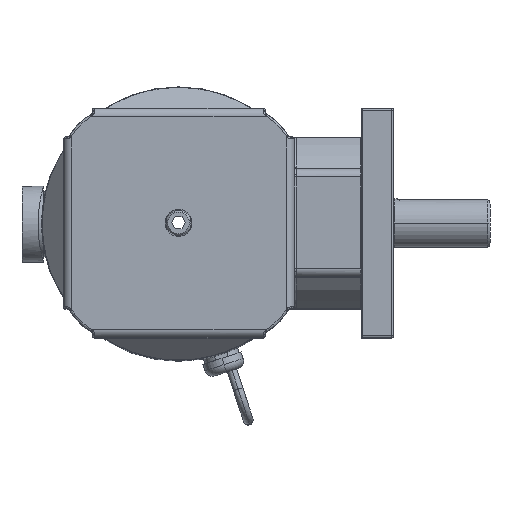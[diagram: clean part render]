
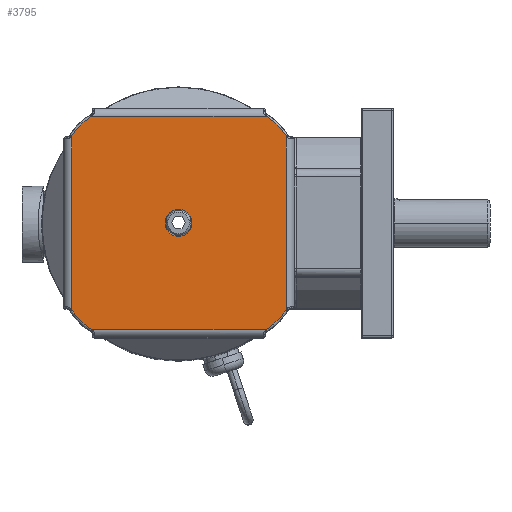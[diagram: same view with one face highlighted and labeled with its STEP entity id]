
A CAD part, top view. The second image highlights one B-rep face of the part: STEP entity #3795.
In plain terms, the highlighted planar face has unit normal (0, 0, 1).
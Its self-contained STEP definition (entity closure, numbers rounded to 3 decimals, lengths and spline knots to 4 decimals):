
#100 = LINE ( 'NONE', #106, #165 ) ;
#101 = DIRECTION ( 'NONE',  ( 1., 0., 0. ) ) ;
#102 = DIRECTION ( 'NONE',  ( 0., 0., 1. ) ) ;
#103 = CARTESIAN_POINT ( 'NONE',  ( 0., 0., 2.821 ) ) ;
#104 = AXIS2_PLACEMENT_3D ( 'NONE', #103, #102, #101 ) ;
#105 = CIRCLE ( 'NONE', #104, 0.2093 ) ;
#106 = CARTESIAN_POINT ( 'NONE',  ( -1.66, -1.785, 2.821 ) ) ;
#138 = DIRECTION ( 'NONE',  ( -1., 0., 0. ) ) ;
#139 = DIRECTION ( 'NONE',  ( 0., 0., -1. ) ) ;
#140 = CARTESIAN_POINT ( 'NONE',  ( -1.785, -1.785, 2.821 ) ) ;
#141 = AXIS2_PLACEMENT_3D ( 'NONE', #140, #139, #138 ) ;
#142 = PLANE ( 'NONE',  #141 ) ;
#143 = FACE_OUTER_BOUND ( 'NONE', #4063, .T. ) ;
#144 = FACE_BOUND ( 'NONE', #3780, .T. ) ;
#164 = DIRECTION ( 'NONE',  ( 0., -1., 0. ) ) ;
#165 = VECTOR ( 'NONE', #164, 39.3701 ) ;
#2305 = DIRECTION ( 'NONE',  ( -1., 0., 0. ) ) ;
#2306 = DIRECTION ( 'NONE',  ( 0., 0., 1. ) ) ;
#2307 = CARTESIAN_POINT ( 'NONE',  ( 0.861, -0.85, 2.821 ) ) ;
#2308 = AXIS2_PLACEMENT_3D ( 'NONE', #2307, #2306, #2305 ) ;
#2309 = CIRCLE ( 'NONE', #2308, 0.9527 ) ;
#2310 = CARTESIAN_POINT ( 'NONE',  ( 1.671, -1.3516, 2.821 ) ) ;
#3550 = EDGE_CURVE ( 'NONE', #3723, #20335, #5671, .T. ) ;
#3723 = VERTEX_POINT ( 'NONE', #24276 ) ;
#3779 = EDGE_CURVE ( 'NONE', #16780, #16795, #105, .T. ) ;
#3780 = EDGE_LOOP ( 'NONE', ( #4061, #4062 ) ) ;
#3781 = ORIENTED_EDGE ( 'NONE', *, *, #20449, .T. ) ;
#3782 = ORIENTED_EDGE ( 'NONE', *, *, #20657, .T. ) ;
#3783 = ORIENTED_EDGE ( 'NONE', *, *, #3784, .T. ) ;
#3784 = EDGE_CURVE ( 'NONE', #20686, #35965, #100, .T. ) ;
#3785 = ORIENTED_EDGE ( 'NONE', *, *, #21037, .T. ) ;
#3795 = ADVANCED_FACE ( 'NONE', ( #144, #143 ), #142, .F. ) ;
#3918 = ORIENTED_EDGE ( 'NONE', *, *, #3550, .T. ) ;
#3922 = VERTEX_POINT ( 'NONE', #2310 ) ;
#3924 = EDGE_CURVE ( 'NONE', #17949, #3922, #2309, .T. ) ;
#4004 = EDGE_CURVE ( 'NONE', #3922, #3723, #38450, .T. ) ;
#4061 = ORIENTED_EDGE ( 'NONE', *, *, #3779, .F. ) ;
#4062 = ORIENTED_EDGE ( 'NONE', *, *, #16779, .F. ) ;
#4063 = EDGE_LOOP ( 'NONE', ( #4064, #3918, #3781, #3782, #3783, #3785, #4070, #4071 ) ) ;
#4064 = ORIENTED_EDGE ( 'NONE', *, *, #4004, .T. ) ;
#4070 = ORIENTED_EDGE ( 'NONE', *, *, #18234, .T. ) ;
#4071 = ORIENTED_EDGE ( 'NONE', *, *, #3924, .T. ) ;
#5667 = DIRECTION ( 'NONE',  ( -1., 0., 0. ) ) ;
#5668 = DIRECTION ( 'NONE',  ( 0., 0., 1. ) ) ;
#5669 = CARTESIAN_POINT ( 'NONE',  ( 0.861, 0.85, 2.821 ) ) ;
#5670 = AXIS2_PLACEMENT_3D ( 'NONE', #5669, #5668, #5667 ) ;
#5671 = CIRCLE ( 'NONE', #5670, 0.9527 ) ;
#11876 = CARTESIAN_POINT ( 'NONE',  ( -1.3516, -1.66, 2.821 ) ) ;
#12815 = CARTESIAN_POINT ( 'NONE',  ( -1.66, -1.3516, 2.821 ) ) ;
#16779 = EDGE_CURVE ( 'NONE', #16795, #16780, #46021, .T. ) ;
#16780 = VERTEX_POINT ( 'NONE', #46014 ) ;
#16795 = VERTEX_POINT ( 'NONE', #45945 ) ;
#17949 = VERTEX_POINT ( 'NONE', #47228 ) ;
#18234 = EDGE_CURVE ( 'NONE', #25628, #17949, #47404, .T. ) ;
#20335 = VERTEX_POINT ( 'NONE', #48809 ) ;
#20449 = EDGE_CURVE ( 'NONE', #20335, #20578, #48856, .T. ) ;
#20578 = VERTEX_POINT ( 'NONE', #52107 ) ;
#20657 = EDGE_CURVE ( 'NONE', #20578, #20686, #31684, .T. ) ;
#20686 = VERTEX_POINT ( 'NONE', #32050 ) ;
#21037 = EDGE_CURVE ( 'NONE', #35965, #25628, #40085, .T. ) ;
#24276 = CARTESIAN_POINT ( 'NONE',  ( 1.671, 1.3516, 2.821 ) ) ;
#25628 = VERTEX_POINT ( 'NONE', #11876 ) ;
#31679 = DIRECTION ( 'NONE',  ( -1., 0., 0. ) ) ;
#31680 = DIRECTION ( 'NONE',  ( 0., 0., 1. ) ) ;
#31682 = AXIS2_PLACEMENT_3D ( 'NONE', #31696, #31680, #31679 ) ;
#31684 = CIRCLE ( 'NONE', #31682, 0.9527 ) ;
#31696 = CARTESIAN_POINT ( 'NONE',  ( -0.85, 0.85, 2.821 ) ) ;
#32050 = CARTESIAN_POINT ( 'NONE',  ( -1.66, 1.3516, 2.821 ) ) ;
#35965 = VERTEX_POINT ( 'NONE', #12815 ) ;
#38447 = DIRECTION ( 'NONE',  ( 0., 1., 0. ) ) ;
#38448 = VECTOR ( 'NONE', #38447, 39.3701 ) ;
#38449 = CARTESIAN_POINT ( 'NONE',  ( 1.671, 1.337, 2.821 ) ) ;
#38450 = LINE ( 'NONE', #38449, #38448 ) ;
#40081 = DIRECTION ( 'NONE',  ( -1., 0., 0. ) ) ;
#40082 = DIRECTION ( 'NONE',  ( 0., 0., 1. ) ) ;
#40083 = CARTESIAN_POINT ( 'NONE',  ( -0.85, -0.85, 2.821 ) ) ;
#40084 = AXIS2_PLACEMENT_3D ( 'NONE', #40083, #40082, #40081 ) ;
#40085 = CIRCLE ( 'NONE', #40084, 0.9527 ) ;
#45945 = CARTESIAN_POINT ( 'NONE',  ( -0.2093, 0., 2.821 ) ) ;
#46014 = CARTESIAN_POINT ( 'NONE',  ( 0.2093, 0., 2.821 ) ) ;
#46016 = DIRECTION ( 'NONE',  ( 1., 0., 0. ) ) ;
#46017 = DIRECTION ( 'NONE',  ( 0., 0., 1. ) ) ;
#46019 = CARTESIAN_POINT ( 'NONE',  ( 0., 0., 2.821 ) ) ;
#46020 = AXIS2_PLACEMENT_3D ( 'NONE', #46019, #46017, #46016 ) ;
#46021 = CIRCLE ( 'NONE', #46020, 0.2093 ) ;
#47228 = CARTESIAN_POINT ( 'NONE',  ( 1.3626, -1.66, 2.821 ) ) ;
#47399 = DIRECTION ( 'NONE',  ( 1., 0., 0. ) ) ;
#47400 = VECTOR ( 'NONE', #47399, 39.3701 ) ;
#47402 = CARTESIAN_POINT ( 'NONE',  ( -1.785, -1.66, 2.821 ) ) ;
#47404 = LINE ( 'NONE', #47402, #47400 ) ;
#48809 = CARTESIAN_POINT ( 'NONE',  ( 1.3626, 1.66, 2.821 ) ) ;
#48855 = CARTESIAN_POINT ( 'NONE',  ( -1.785, 1.66, 2.821 ) ) ;
#48856 = LINE ( 'NONE', #48855, #48987 ) ;
#48986 = DIRECTION ( 'NONE',  ( -1., 0., 0. ) ) ;
#48987 = VECTOR ( 'NONE', #48986, 39.3701 ) ;
#52107 = CARTESIAN_POINT ( 'NONE',  ( -1.3516, 1.66, 2.821 ) ) ;
